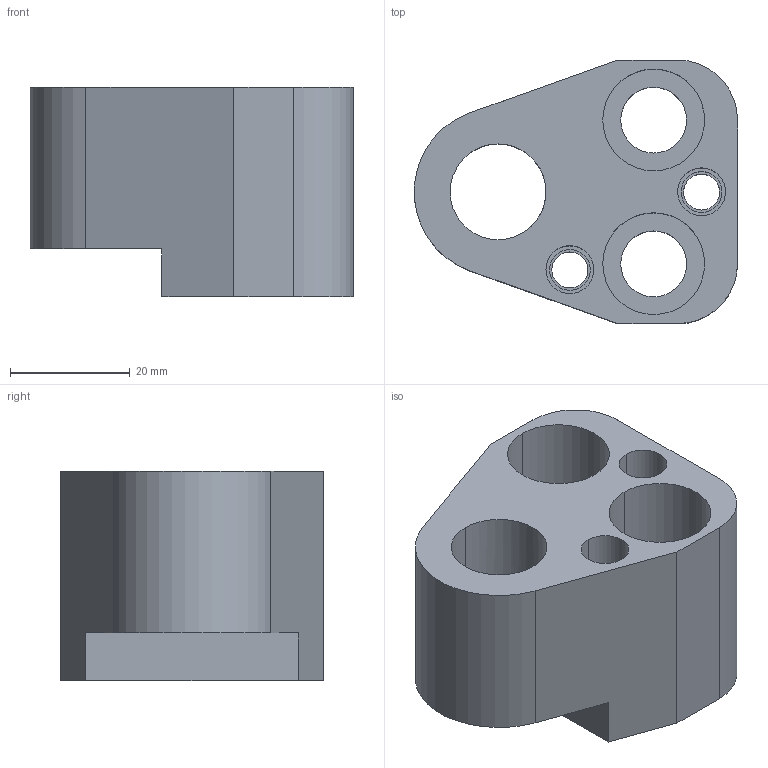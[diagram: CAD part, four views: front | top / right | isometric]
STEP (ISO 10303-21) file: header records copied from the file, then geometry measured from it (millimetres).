
FILE_DESCRIPTION(/* description */ (''),/* implementation_level */ '2;1');
FILE_NAME(/* name */ '3d_hap-fn16_04010_r00.stp',/* time_stamp */ '2011-01-10T14:14:58+09:00',/* author */ ('MISUMI'),/* organization */ (''),/* preprocessor_version */ 'ST-DEVELOPER v11',/* originating_system */ 'UGS - NX 5.0',/* authorisation */ '');
FILE_SCHEMA (('CONFIG_CONTROL_DESIGN'));
Length unit declared in the file: millimetre
Products named in the file (1): 3d_hap-fn16_04010_r00
Bounding box: 53.95 x 44 x 35 mm (x, y, z)
Volume: 41316.5 mm3; surface area: 14399.3 mm2
Topology: 1 solids, 1 shells, 42 faces, 104 edges, 69 vertices
Faces by surface type: cylinder 25, plane 15, cone 2
Entity records: 1382 total; most frequent: DIRECTION 242, CARTESIAN_POINT 221, ORIENTED_EDGE 208, EDGE_CURVE 104, AXIS2_PLACEMENT_3D 96, VERTEX_POINT 69, EDGE_LOOP 57, CIRCLE 53
